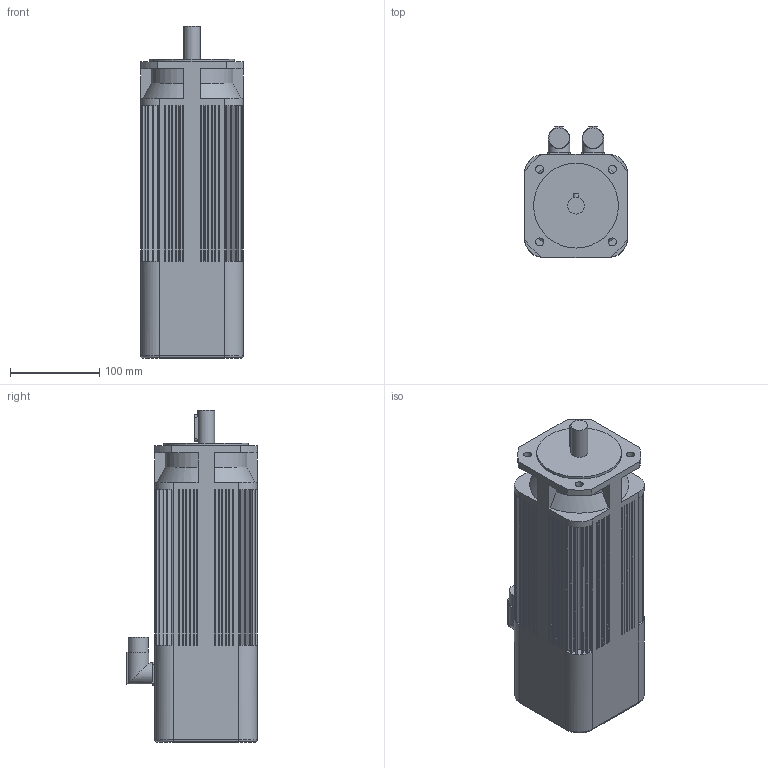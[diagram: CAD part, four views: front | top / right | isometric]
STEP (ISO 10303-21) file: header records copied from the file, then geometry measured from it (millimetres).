
FILE_DESCRIPTION(/* description */ (''),/* implementation_level */ '2;1');
FILE_NAME(/* name */ '\\Lafnas01\disegni\Archivi Lafert\3D\CAD 3D\MODELLI\Assiemi clienti\Serad\Modelli 3D Serad\B63I\Encoder\Enc Without Brake\B6310Ixx6ARx2033.ipt.stp',/* time_stamp */ '2015-09-07T10:50:39+02:00',/* author */ ('Pastrello Ylenia'),/* organization */ (''),/* preprocessor_version */ 'ST-DEVELOPER v15.6',/* originating_system */ 'Autodesk Inventor 2015',/* authorisation */ '');
FILE_SCHEMA (('AUTOMOTIVE_DESIGN { 1 0 10303 214 3 1 1 }'));
Length unit declared in the file: millimetre
Products named in the file (1): B6310Ixx6ARx2033
Bounding box: 115 x 146.5 x 371.5 mm (x, y, z)
Volume: 4097061.9 mm3; surface area: 228606 mm2
Topology: 1 solids, 1 shells, 445 faces, 1091 edges, 704 vertices
Faces by surface type: plane 351, cylinder 86, cone 4, torus 4
Full cylindrical faces by diameter (mm): 9 x4, 19 x1, 22.7 x2, 24 x2, 95 x1
Entity records: 13008 total; most frequent: CARTESIAN_POINT 2276, DIRECTION 2254, ORIENTED_EDGE 2156, EDGE_CURVE 1078, LINE 774, VECTOR 774, AXIS2_PLACEMENT_3D 740, VERTEX_POINT 702
